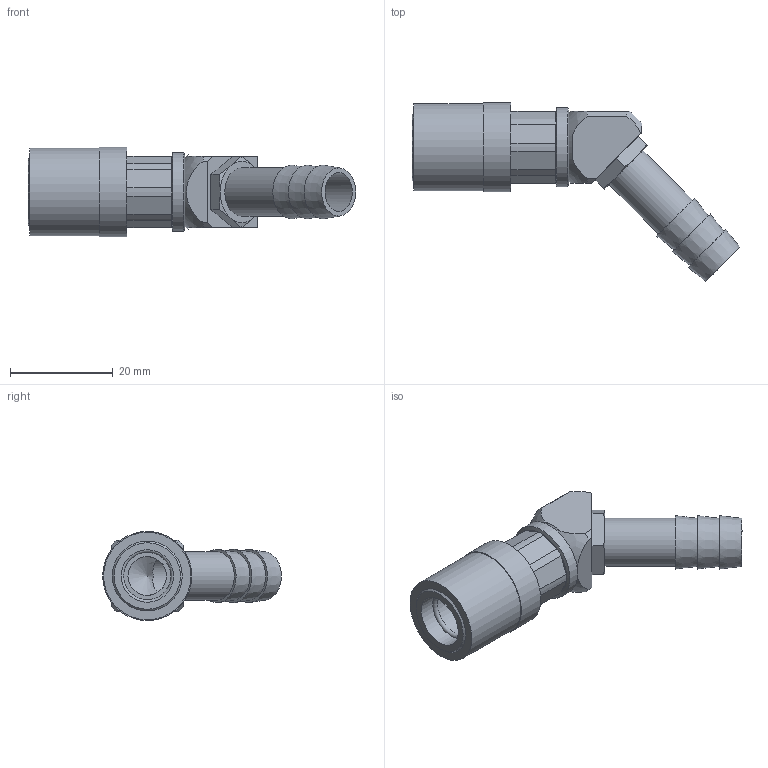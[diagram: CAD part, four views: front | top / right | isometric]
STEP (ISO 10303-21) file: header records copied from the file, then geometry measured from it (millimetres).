
FILE_DESCRIPTION(/* description */ ('STEP AP214'),/* implementation_level */ '2;1');
FILE_NAME(/* name */ 'JS-226-V',/* time_stamp */ '2024-12-19T08:42:27+01:00',/* author */ ('License CC BY-ND 4.0'),/* organization */ ('CADENAS'),/* preprocessor_version */ 'ST-DEVELOPER v19.3',/* originating_system */ 'PARTsolutions',/* authorisation */ ' ');
FILE_SCHEMA (('AUTOMOTIVE_DESIGN {1 0 10303 214 3 1 1}'));
Length unit declared in the file: inch
Products named in the file (1): JS-226-V
Bounding box: 63.78 x 34.77 x 17.36 mm (x, y, z)
Volume: 6836.7 mm3; surface area: 5349.7 mm2
Topology: 1 solids, 1 shells, 82 faces, 178 edges, 115 vertices
Faces by surface type: plane 56, cone 13, cylinder 9, sphere 3, torus 1
Full cylindrical faces by diameter (mm): 7.518 x2, 9.398 x1, 10.211 x2, 13.97 x1, 15.367 x1, 17.018 x1, 17.358 x1
Entity records: 2177 total; most frequent: CARTESIAN_POINT 393, DIRECTION 388, ORIENTED_EDGE 310, AXIS2_PLACEMENT_3D 163, EDGE_CURVE 155, FACE_BOUND 120, EDGE_LOOP 119, VERTEX_POINT 111
